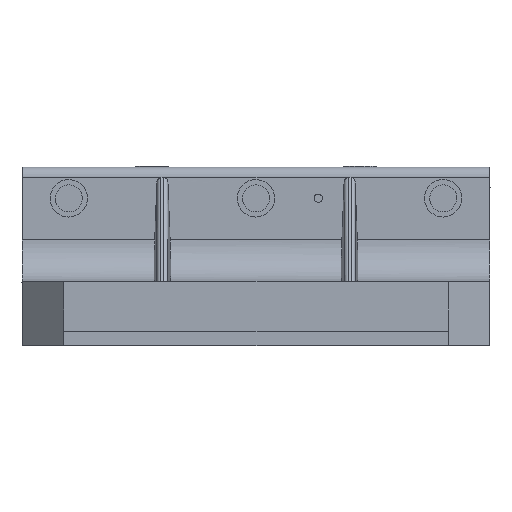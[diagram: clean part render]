
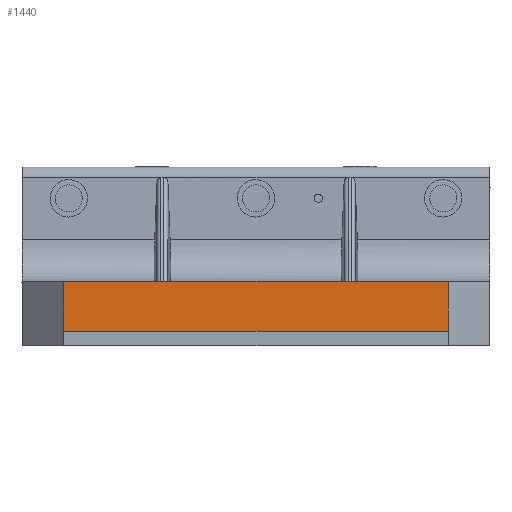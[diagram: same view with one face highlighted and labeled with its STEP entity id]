
A CAD part, front view. The second image highlights one B-rep face of the part: STEP entity #1440.
In plain terms, the highlighted planar face has unit normal (0, -1, 0).
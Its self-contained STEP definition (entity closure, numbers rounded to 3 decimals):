
#1440=ADVANCED_FACE('EGT_050_B8_0155_0571209_Flanschplatte_SW50_90_3D_SET 1.1',(#2986),#2987,.F.);
#2986=FACE_OUTER_BOUND('',#4719,.T.);
#2987=PLANE('',#4720);
#4719=EDGE_LOOP('',(#8821,#8822,#8823,#8824));
#4720=AXIS2_PLACEMENT_3D('',#8825,#8826,#8827);
#8821=ORIENTED_EDGE('',*,*,#11460,.T.);
#8822=ORIENTED_EDGE('',*,*,#11323,.T.);
#8823=ORIENTED_EDGE('',*,*,#11343,.F.);
#8824=ORIENTED_EDGE('',*,*,#11450,.F.);
#8825=CARTESIAN_POINT('',(0.,-157.5,-24.));
#8826=DIRECTION('',(0.,1.0,-0.0));
#8827=DIRECTION('',(0.0,0.0,1.0));
#11323=EDGE_CURVE('',#13722,#13720,#13723,.T.);
#11343=EDGE_CURVE('',#13757,#13720,#13759,.T.);
#11450=EDGE_CURVE('',#13908,#13757,#13910,.T.);
#11460=EDGE_CURVE('',#13908,#13722,#13920,.T.);
#13720=VERTEX_POINT('',#22300);
#13722=VERTEX_POINT('',#22303);
#13723=B_SPLINE_CURVE_WITH_KNOTS('',1,(#22304,#22305),.UNSPECIFIED.,.F.,.F.,(2,2),(0.0,1.0),.UNSPECIFIED.);
#13757=VERTEX_POINT('',#22388);
#13759=B_SPLINE_CURVE_WITH_KNOTS('',1,(#22391,#22392),.UNSPECIFIED.,.F.,.F.,(2,2),(0.,1.0),.UNSPECIFIED.);
#13908=VERTEX_POINT('',#22965);
#13910=B_SPLINE_CURVE_WITH_KNOTS('',1,(#22968,#22969),.UNSPECIFIED.,.F.,.F.,(2,2),(0.,1.0),.UNSPECIFIED.);
#13920=B_SPLINE_CURVE_WITH_KNOTS('',1,(#23023,#23024),.UNSPECIFIED.,.F.,.F.,(2,2),(0.0,1.0),.UNSPECIFIED.);
#22300=CARTESIAN_POINT('',(92.5,-157.5,7.));
#22303=CARTESIAN_POINT('',(92.5,-157.5,-17.));
#22304=CARTESIAN_POINT('',(92.5,-157.5,-17.));
#22305=CARTESIAN_POINT('',(92.5,-157.5,7.));
#22388=CARTESIAN_POINT('',(-92.5,-157.5,7.));
#22391=CARTESIAN_POINT('',(-92.5,-157.5,7.));
#22392=CARTESIAN_POINT('',(92.5,-157.5,7.));
#22965=CARTESIAN_POINT('',(-92.5,-157.5,-17.));
#22968=CARTESIAN_POINT('',(-92.5,-157.5,-17.));
#22969=CARTESIAN_POINT('',(-92.5,-157.5,7.));
#23023=CARTESIAN_POINT('',(-92.5,-157.5,-17.));
#23024=CARTESIAN_POINT('',(92.5,-157.5,-17.));
